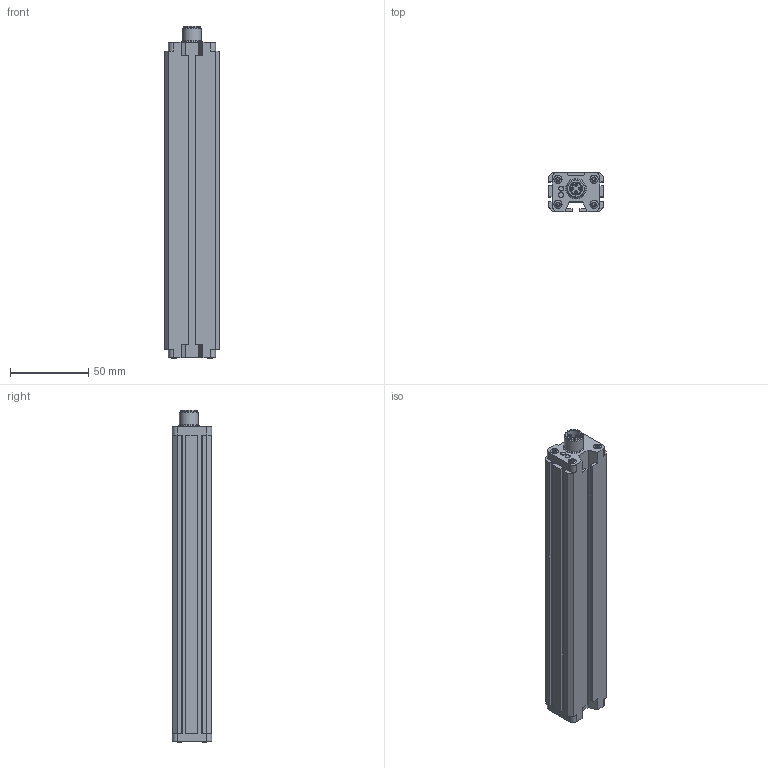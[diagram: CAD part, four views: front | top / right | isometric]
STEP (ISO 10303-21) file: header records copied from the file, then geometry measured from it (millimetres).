
FILE_DESCRIPTION((''),'2;1');
FILE_NAME('C:\TurckZip\M1536632.stp','2009-03-25T11:58:36',('IKOROL'),(''),'Autodesk Inventor 2009','Autodesk Inventor 2009','');
FILE_SCHEMA(('CONFIG_CONTROL_DESIGN'));
Length unit declared in the file: millimetre
Products named in the file (1): Part21
Bounding box: 35 x 25 x 211.65 mm (x, y, z)
Volume: 155503 mm3; surface area: 34434.8 mm2
Topology: 19 solids, 19 shells, 295 faces, 703 edges, 454 vertices
Faces by surface type: plane 159, cylinder 82, bspline 28, cone 19, torus 7
Full cylindrical faces by diameter (mm): 1 x12, 3 x8, 3.1 x2, 3.2 x2, 5.2 x16, 8 x1, 8.3 x1, 9.45 x1, 9.6 x1, 9.9 x1, 10 x1, 10.5 x1, 12 x1, 13 x1
Entity records: 9025 total; most frequent: CARTESIAN_POINT 2423, DIRECTION 1258, ORIENTED_EDGE 1138, EDGE_CURVE 569, AXIS2_PLACEMENT_3D 471, EDGE_LOOP 436, VERTEX_POINT 422, VECTOR 316
